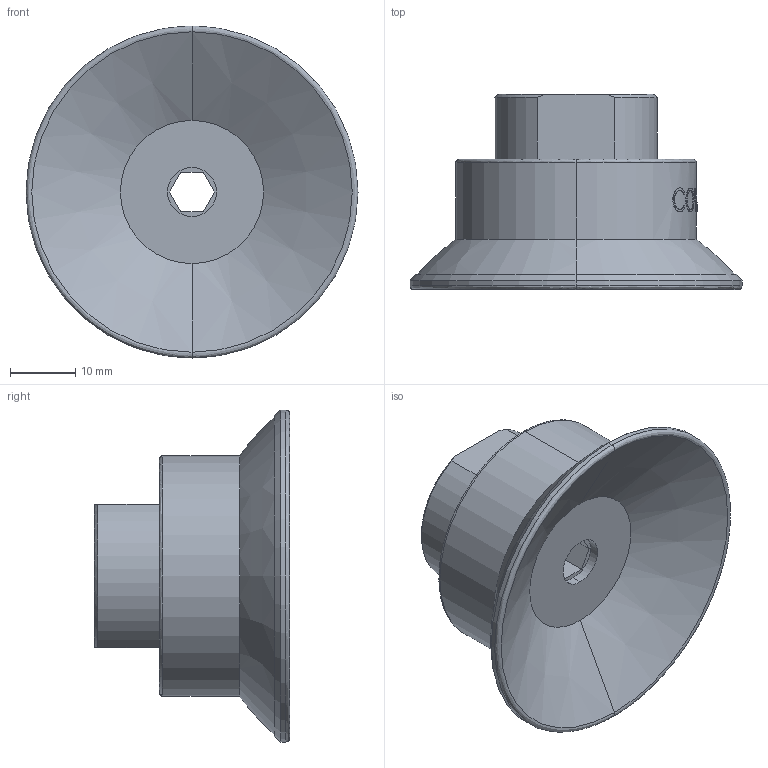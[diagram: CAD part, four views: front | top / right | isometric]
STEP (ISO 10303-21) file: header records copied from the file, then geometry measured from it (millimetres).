
FILE_DESCRIPTION (( 'STEP AP214' ), '1' );
FILE_NAME ('VFC50.STEP', '2019-11-25T07:33:03', ( '微软用户' ), ( '微软中国' ), 'SwSTEP 2.0', 'SolidWorks 2016', '' );
FILE_SCHEMA (( 'AUTOMOTIVE_DESIGN' ));
Length unit declared in the file: millimetre
Products named in the file (1): VFC50
Bounding box: 51 x 30 x 51 mm (x, y, z)
Volume: 20124.1 mm3; surface area: 7693.5 mm2
Topology: 1 solids, 1 shells, 93 faces, 224 edges, 144 vertices
Faces by surface type: bspline 35, plane 28, cylinder 20, cone 10
Entity records: 13405 total; most frequent: CARTESIAN_POINT 10351, ORIENTED_EDGE 448, DIRECTION 344, EDGE_CURVE 224, VERTEX_POINT 144, AXIS2_PLACEMENT_3D 125, EDGE_LOOP 106, UNCERTAINTY_MEASURE_WITH_UNIT 96
